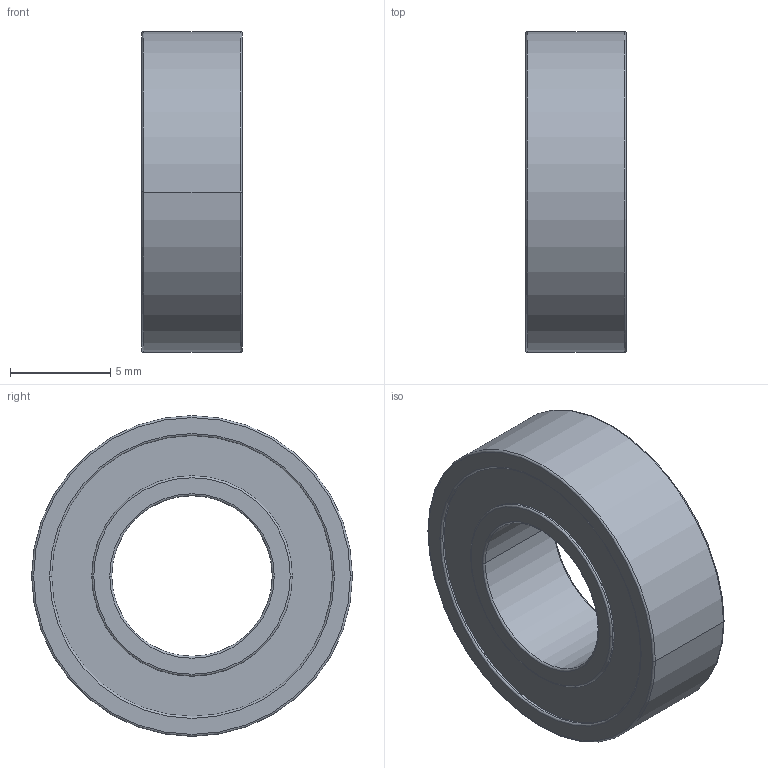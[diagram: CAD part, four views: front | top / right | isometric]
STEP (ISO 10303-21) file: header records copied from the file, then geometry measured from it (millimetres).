
FILE_DESCRIPTION (( 'STEP AP203' ), '1' );
FILE_NAME ('084.800.012.STEP', '2013-01-29T09:30:36', ( 'Alusic' ), ( 'Alusic' ), 'SwSTEP 2.0', 'SolidWorks 2011', '' );
FILE_SCHEMA (( 'CONFIG_CONTROL_DESIGN' ));
Length unit declared in the file: millimetre
Products named in the file (1): 084.800.012
Bounding box: 5 x 16 x 16 mm (x, y, z)
Volume: 723.2 mm3; surface area: 695.8 mm2
Topology: 1 solids, 1 shells, 34 faces, 68 edges, 40 vertices
Faces by surface type: torus 16, cylinder 12, plane 6
Entity records: 981 total; most frequent: DIRECTION 194, CARTESIAN_POINT 143, ORIENTED_EDGE 136, AXIS2_PLACEMENT_3D 91, EDGE_CURVE 68, CIRCLE 56, VERTEX_POINT 40, EDGE_LOOP 40
